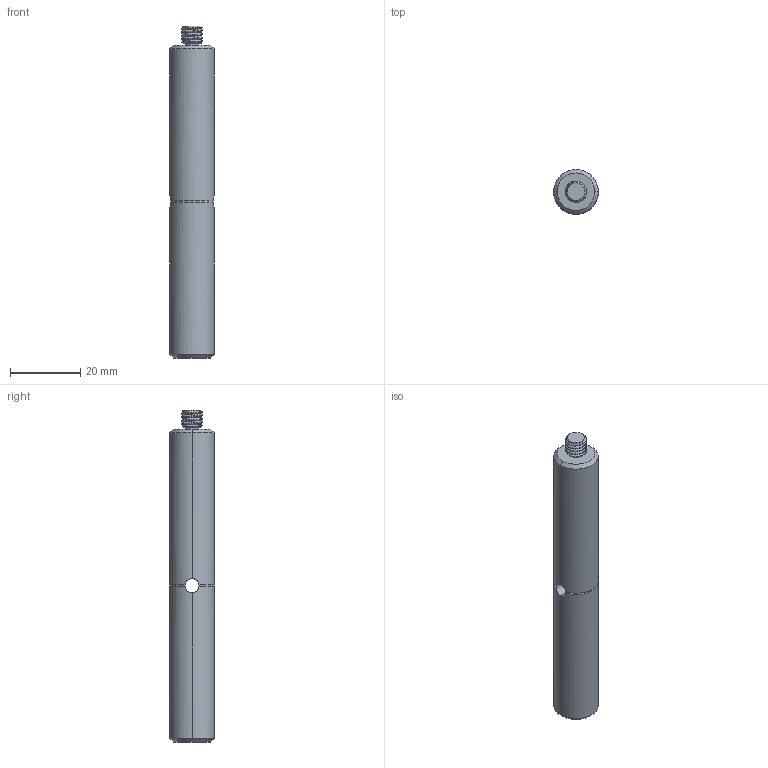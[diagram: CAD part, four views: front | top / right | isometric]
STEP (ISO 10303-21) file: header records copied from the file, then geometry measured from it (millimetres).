
FILE_DESCRIPTION((''),'2;1');
FILE_NAME('PCAH3_5-A','2023-03-14T14:26:56',('R&D'),(''),'CREO PARAMETRIC BY PTC INC, 2022162','CREO PARAMETRIC BY PTC INC, 2022162','');
FILE_SCHEMA(('CONFIG_CONTROL_DESIGN'));
Length unit declared in the file: millimetre
Products named in the file (1): PCAH3_5-A
Bounding box: 12.7 x 12.7 x 94.4 mm (x, y, z)
Volume: 10908.3 mm3; surface area: 4286.5 mm2
Topology: 1 solids, 1 shells, 69 faces, 184 edges, 116 vertices
Faces by surface type: cylinder 37, bspline 14, cone 12, plane 4, torus 2
Entity records: 4614 total; most frequent: CARTESIAN_POINT 3069, ORIENTED_EDGE 364, DIRECTION 229, EDGE_CURVE 182, VERTEX_POINT 116, B_SPLINE_CURVE_WITH_KNOTS 93, AXIS2_PLACEMENT_3D 85, EDGE_LOOP 72
